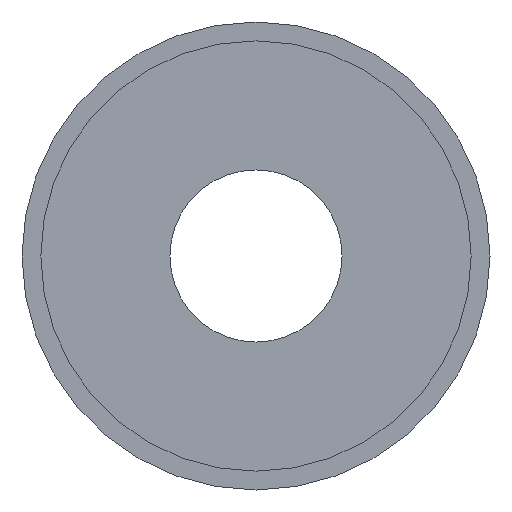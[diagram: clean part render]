
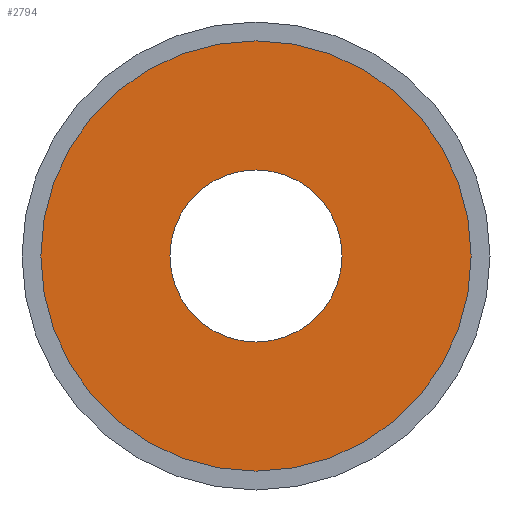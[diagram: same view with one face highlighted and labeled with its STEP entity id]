
A CAD part, front view. The second image highlights one B-rep face of the part: STEP entity #2794.
In plain terms, the highlighted planar face has unit normal (0, -1, 0).
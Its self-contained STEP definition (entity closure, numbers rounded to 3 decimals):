
#12 = CIRCLE ( 'NONE', #1684, 40. ) ;
#33 = ORIENTED_EDGE ( 'NONE', *, *, #2130, .F. ) ;
#288 = FACE_OUTER_BOUND ( 'NONE', #842, .T. ) ;
#300 = VERTEX_POINT ( 'NONE', #417 ) ;
#417 = CARTESIAN_POINT ( 'NONE',  ( 0., -16.5, -40. ) ) ;
#435 = DIRECTION ( 'NONE',  ( 0., -1., 0. ) ) ;
#486 = CIRCLE ( 'NONE', #2740, 40. ) ;
#536 = DIRECTION ( 'NONE',  ( 0., 0., -1. ) ) ;
#608 = AXIS2_PLACEMENT_3D ( 'NONE', #2310, #1860, #536 ) ;
#637 = CARTESIAN_POINT ( 'NONE',  ( 0., -16.5, 16. ) ) ;
#677 = CARTESIAN_POINT ( 'NONE',  ( 0., -16.5, 0. ) ) ;
#715 = AXIS2_PLACEMENT_3D ( 'NONE', #752, #3306, #1273 ) ;
#752 = CARTESIAN_POINT ( 'NONE',  ( 0., -16.5, 16. ) ) ;
#770 = CIRCLE ( 'NONE', #1269, 16. ) ;
#842 = EDGE_LOOP ( 'NONE', ( #2500, #2018 ) ) ;
#1158 = DIRECTION ( 'NONE',  ( 0., -1., 0. ) ) ;
#1159 = ORIENTED_EDGE ( 'NONE', *, *, #1300, .F. ) ;
#1194 = CARTESIAN_POINT ( 'NONE',  ( 0., -16.5, 0. ) ) ;
#1254 = EDGE_CURVE ( 'NONE', #3087, #300, #12, .T. ) ;
#1269 = AXIS2_PLACEMENT_3D ( 'NONE', #2978, #1415, #3210 ) ;
#1273 = DIRECTION ( 'NONE',  ( 0., 0., 1. ) ) ;
#1300 = EDGE_CURVE ( 'NONE', #3169, #2112, #770, .T. ) ;
#1415 = DIRECTION ( 'NONE',  ( 0., -1., 0. ) ) ;
#1684 = AXIS2_PLACEMENT_3D ( 'NONE', #1194, #435, #2448 ) ;
#1860 = DIRECTION ( 'NONE',  ( 0., -1., 0. ) ) ;
#2018 = ORIENTED_EDGE ( 'NONE', *, *, #1254, .T. ) ;
#2112 = VERTEX_POINT ( 'NONE', #3074 ) ;
#2130 = EDGE_CURVE ( 'NONE', #2112, #3169, #3237, .T. ) ;
#2190 = DIRECTION ( 'NONE',  ( 0., 0., -1. ) ) ;
#2310 = CARTESIAN_POINT ( 'NONE',  ( 0., -16.5, 0. ) ) ;
#2448 = DIRECTION ( 'NONE',  ( 0., 0., -1. ) ) ;
#2470 = FACE_BOUND ( 'NONE', #2594, .T. ) ;
#2500 = ORIENTED_EDGE ( 'NONE', *, *, #3177, .T. ) ;
#2594 = EDGE_LOOP ( 'NONE', ( #33, #1159 ) ) ;
#2740 = AXIS2_PLACEMENT_3D ( 'NONE', #677, #1158, #2190 ) ;
#2794 = ADVANCED_FACE ( 'NONE', ( #2470, #288 ), #3039, .F. ) ;
#2897 = CARTESIAN_POINT ( 'NONE',  ( 0., -16.5, 40. ) ) ;
#2978 = CARTESIAN_POINT ( 'NONE',  ( 0., -16.5, 0. ) ) ;
#3039 = PLANE ( 'NONE',  #715 ) ;
#3074 = CARTESIAN_POINT ( 'NONE',  ( 0., -16.5, -16. ) ) ;
#3087 = VERTEX_POINT ( 'NONE', #2897 ) ;
#3169 = VERTEX_POINT ( 'NONE', #637 ) ;
#3177 = EDGE_CURVE ( 'NONE', #300, #3087, #486, .T. ) ;
#3210 = DIRECTION ( 'NONE',  ( 0., 0., -1. ) ) ;
#3237 = CIRCLE ( 'NONE', #608, 16. ) ;
#3306 = DIRECTION ( 'NONE',  ( 0., 1., 0. ) ) ;
